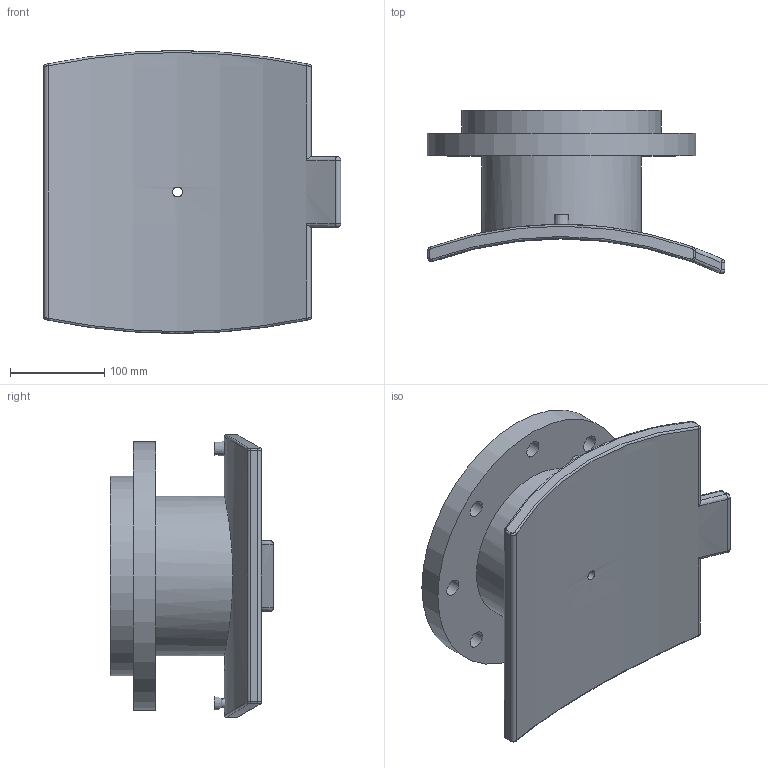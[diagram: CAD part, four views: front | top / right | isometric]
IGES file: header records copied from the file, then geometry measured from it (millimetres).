
Global section: file name: 495904710150T.ipt; native system: Autodesk Inventor 2015; preprocessor: unknown; author: KIM; date: 20190124.130541; units: millimetre
Bounding box: 315.75 x 173.15 x 300 mm (x, y, z)
Volume: 3162967 mm3; surface area: 423723.6 mm2
Topology: 2 solids, 2 shells, 75 faces, 164 edges, 103 vertices
Faces by surface type: cylinder 24, revolution 17, plane 16, bspline 12, sphere 4, cone 2
Full cylindrical faces by diameter (mm): 4 x2, 16 x1, 169.6 x1, 212 x1, 285 x1
